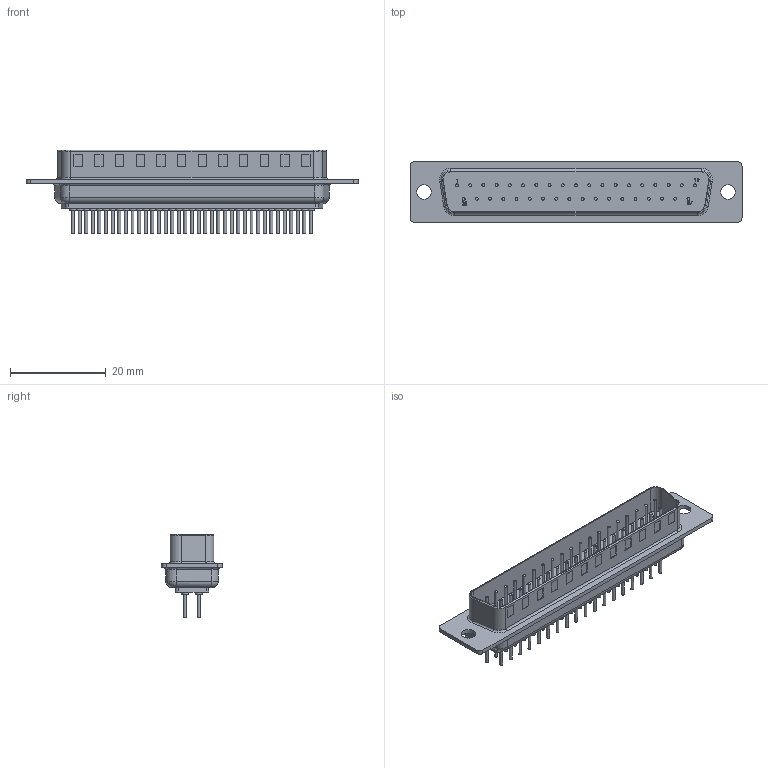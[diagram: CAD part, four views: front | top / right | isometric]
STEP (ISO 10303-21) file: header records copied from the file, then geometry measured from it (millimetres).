
FILE_DESCRIPTION (( 'STEP AP203' ), '1' );
FILE_NAME ('772-E37-113R001.STEP', '2026-04-28T15:13:01', ( '' ), ( '' ), 'SwSTEP 2.0', 'SolidWorks 2020', '' );
FILE_SCHEMA (( 'CONFIG_CONTROL_DESIGN' ));
Length unit declared in the file: inch
Products named in the file (1): 772-E37-113R001
Bounding box: 69.29 x 12.6 x 17.36 mm (x, y, z)
Volume: 3987.4 mm3; surface area: 4740.1 mm2
Topology: 1 solids, 1 shells, 503 faces, 1026 edges, 672 vertices
Faces by surface type: plane 301, cylinder 149, bspline 37, torus 16
Full cylindrical faces by diameter (mm): 0.61 x74, 1.397 x37, 3.048 x2
Entity records: 14738 total; most frequent: CARTESIAN_POINT 4406, DIRECTION 2083, ORIENTED_EDGE 1826, EDGE_CURVE 913, AXIS2_PLACEMENT_3D 781, EDGE_LOOP 767, VERTEX_POINT 672, FACE_OUTER_BOUND 616
